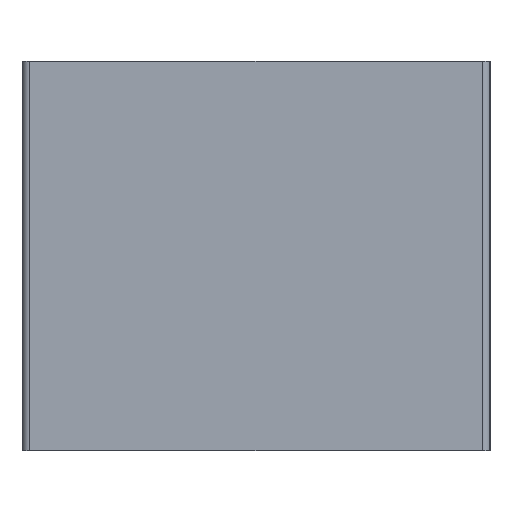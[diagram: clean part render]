
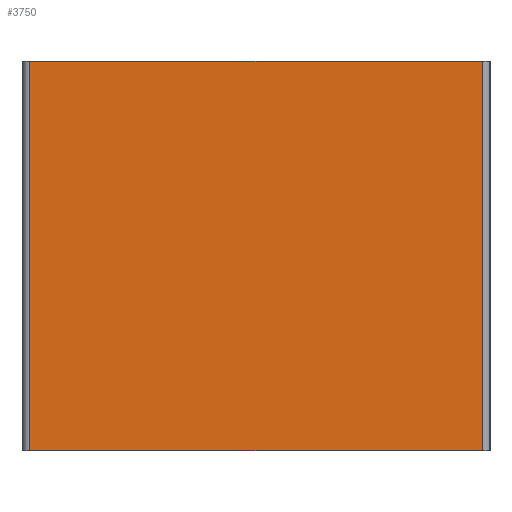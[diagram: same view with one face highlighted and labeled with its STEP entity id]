
A CAD part, left-side view. The second image highlights one B-rep face of the part: STEP entity #3750.
In plain terms, the highlighted planar face has unit normal (-1, 0, 0).
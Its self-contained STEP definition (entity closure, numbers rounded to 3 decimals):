
#451 = AXIS2_PLACEMENT_3D ( 'NONE', #2781, #2785, #2786 ) ;
#691 = DIRECTION ( 'NONE',  ( 0., 0., -1. ) ) ;
#698 = CARTESIAN_POINT ( 'NONE',  ( 302.511, 199.026, 50. ) ) ;
#701 = DIRECTION ( 'NONE',  ( 0., -1., 0. ) ) ;
#705 = CARTESIAN_POINT ( 'NONE',  ( 302.511, 141.026, 0. ) ) ;
#711 = CARTESIAN_POINT ( 'NONE',  ( 302.511, 141.026, 50. ) ) ;
#712 = DIRECTION ( 'NONE',  ( 0., -1., 0. ) ) ;
#1008 = LINE ( 'NONE', #1699, #1013 ) ;
#1013 = VECTOR ( 'NONE', #1966, 1000. ) ;
#1699 = CARTESIAN_POINT ( 'NONE',  ( 302.511, 141.026, 50. ) ) ;
#1891 = CARTESIAN_POINT ( 'NONE',  ( 302.511, 199.026, 0. ) ) ;
#1966 = DIRECTION ( 'NONE',  ( 0., 0., -1. ) ) ;
#2528 = FACE_OUTER_BOUND ( 'NONE', #4095, .T. ) ;
#2781 = CARTESIAN_POINT ( 'NONE',  ( 302.511, 141.026, 50. ) ) ;
#2783 = PLANE ( 'NONE',  #451 ) ;
#2785 = DIRECTION ( 'NONE',  ( 1., 0., 0. ) ) ;
#2786 = DIRECTION ( 'NONE',  ( 0., 0., -1. ) ) ;
#3237 = CARTESIAN_POINT ( 'NONE',  ( 302.511, 141.026, 50. ) ) ;
#3238 = CARTESIAN_POINT ( 'NONE',  ( 302.511, 141.026, 0. ) ) ;
#3269 = CARTESIAN_POINT ( 'NONE',  ( 302.511, 199.026, 50. ) ) ;
#3347 = EDGE_CURVE ( 'NONE', #4628, #4633, #4402, .T. ) ;
#3349 = EDGE_CURVE ( 'NONE', #4633, #4245, #4404, .T. ) ;
#3350 = EDGE_CURVE ( 'NONE', #4628, #4243, #4405, .T. ) ;
#3527 = EDGE_CURVE ( 'NONE', #4243, #4245, #1008, .T. ) ;
#3750 = ADVANCED_FACE ( 'NONE', ( #2528 ), #2783, .F. ) ;
#4095 = EDGE_LOOP ( 'NONE', ( #4622, #4671, #4668, #4674 ) ) ;
#4243 = VERTEX_POINT ( 'NONE', #3237 ) ;
#4245 = VERTEX_POINT ( 'NONE', #3238 ) ;
#4402 = LINE ( 'NONE', #698, #4403 ) ;
#4403 = VECTOR ( 'NONE', #691, 1000. ) ;
#4404 = LINE ( 'NONE', #705, #4406 ) ;
#4405 = LINE ( 'NONE', #711, #4960 ) ;
#4406 = VECTOR ( 'NONE', #701, 1000. ) ;
#4622 = ORIENTED_EDGE ( 'NONE', *, *, #3349, .T. ) ;
#4628 = VERTEX_POINT ( 'NONE', #3269 ) ;
#4633 = VERTEX_POINT ( 'NONE', #1891 ) ;
#4668 = ORIENTED_EDGE ( 'NONE', *, *, #3350, .F. ) ;
#4671 = ORIENTED_EDGE ( 'NONE', *, *, #3527, .F. ) ;
#4674 = ORIENTED_EDGE ( 'NONE', *, *, #3347, .T. ) ;
#4960 = VECTOR ( 'NONE', #712, 1000. ) ;
